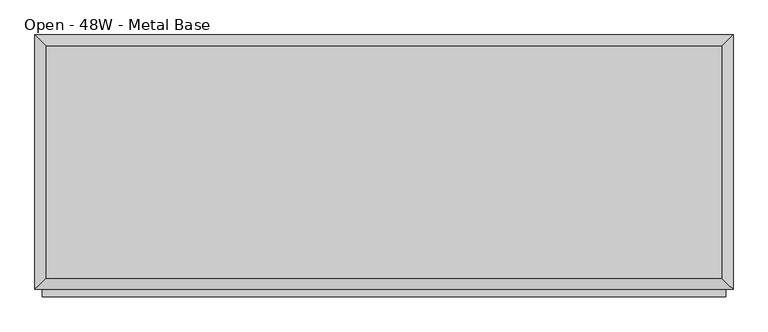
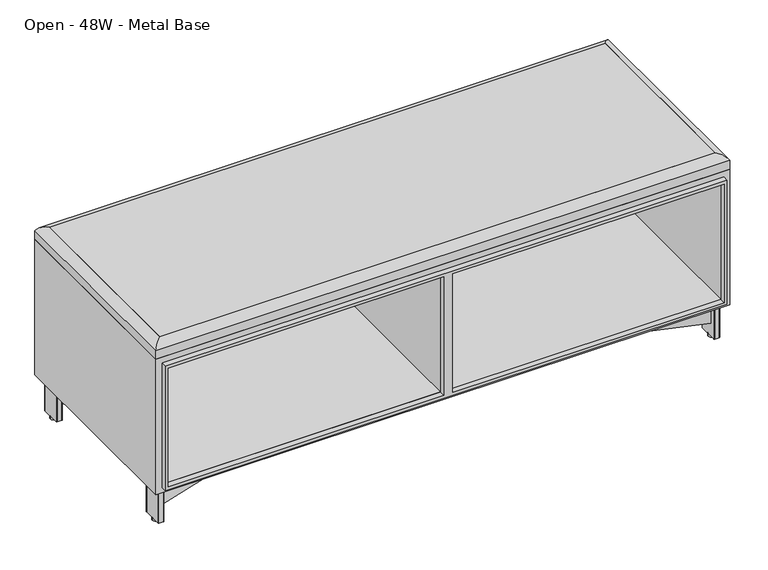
"""IFC4 building model written with IfcOpenShell, lengths in millimetres: furniture geometry, Steelcase Coalesse - Exponents - Seating - Bench : Open - 48W - Metal Base."""

import ifcopenshell
import ifcopenshell.guid

model = None  # the IFC model being written
_history = None  # IfcOwnerHistory: only IFC2X3 demands one
_inside = {}  # id of a spatial element -> (the spatial element, [elements in it])
_under = {}  # id of a project, library or spatial element -> (it, [spatial elements below it])
_declared = {}  # id of a project -> (the project, [libraries it declares])
_typed = {}  # id of a type object -> (the type object, [elements of that type])
_made_of = {}  # id of a material, layer set ... -> (it, [elements and type objects made of it])


def new_model(schema):
    """Start an empty IFC model of exactly this schema.

    Asked for "IFC4X3", IfcOpenShell would pick the latest addendum, in which some entities
    have other attributes; the version numbers below select the first issue.
    IFC2X3 requires an IfcOwnerHistory on every rooted entity: one is made here for all.
    """
    global model, _history
    if schema == "IFC4X3":
        model = ifcopenshell.file(schema_version=(4, 3, 0, 0))
    else:
        model = ifcopenshell.file(schema=schema)
    _inside.clear()
    _under.clear()
    _declared.clear()
    _typed.clear()
    _made_of.clear()
    _history = None
    if model.schema == "IFC2X3":
        org = make("IfcOrganization", Name="unknown")
        user = make(
            "IfcPersonAndOrganization",
            ThePerson=make("IfcPerson", FamilyName="unknown"),
            TheOrganization=org,
        )
        app = make(
            "IfcApplication",
            ApplicationDeveloper=org,
            Version="unknown",
            ApplicationFullName="unknown",
            ApplicationIdentifier="unknown",
        )
        _history = make(
            "IfcOwnerHistory",
            OwningUser=user,
            OwningApplication=app,
            ChangeAction="ADDED",
            CreationDate=0,
        )
    return model


def make(cls, **values):
    """One entity of the class cls with the attributes given. An attribute that is None is left unset."""
    return model.create_entity(
        cls, **{name: value for name, value in values.items() if value is not None}
    )


def rooted(cls, **values):
    """An entity with a GlobalId (a new one), such as an element, a storey or a relation."""
    return make(cls, GlobalId=ifcopenshell.guid.new(), OwnerHistory=_history, **values)


def si_unit(unit_type, name, prefix=None):
    """IfcSIUnit, for example si_unit("LENGTHUNIT", "METRE", prefix="MILLI")."""
    return make("IfcSIUnit", UnitType=unit_type, Prefix=prefix, Name=name)


def assignment(units):
    """IfcUnitAssignment: the units of a project."""
    return None if units is None else make("IfcUnitAssignment", Units=units)


def point(xyz):
    """IfcCartesianPoint."""
    return None if xyz is None else make("IfcCartesianPoint", Coordinates=xyz)


def direction(xyz):
    """IfcDirection."""
    return None if xyz is None else make("IfcDirection", DirectionRatios=xyz)


def frame(location, z_axis=None, x_axis=None):
    """IfcAxis2Placement3D, a coordinate frame: its origin and axes. An axis left out is left unset."""
    return make(
        "IfcAxis2Placement3D",
        Location=point(location),
        Axis=direction(z_axis),
        RefDirection=direction(x_axis),
    )


def frame_2d(location, x_axis=None):
    """IfcAxis2Placement2D, a coordinate frame in the plane: its origin and x axis."""
    return make(
        "IfcAxis2Placement2D", Location=point(location), RefDirection=direction(x_axis)
    )


def origin():
    """The frame at (0, 0, 0) with its axes left unset."""
    return frame((0.0, 0.0, 0.0))


def origin_with_axes():
    """The frame at (0, 0, 0) with the z axis (0, 0, 1) and the x axis (1, 0, 0) written out."""
    return frame((0.0, 0.0, 0.0), z_axis=(0.0, 0.0, 1.0), x_axis=(1.0, 0.0, 0.0))


def place(relative_to, where):
    """IfcLocalPlacement: puts the frame where relative to a parent placement (None: the world)."""
    return make(
        "IfcLocalPlacement", PlacementRelTo=relative_to, RelativePlacement=where
    )


def context(
    kind, dimensions, precision=None, world=None, true_north=None, identifier=None
):
    """IfcGeometricRepresentationContext, for example the 3D "Model" context."""
    return make(
        "IfcGeometricRepresentationContext",
        ContextIdentifier=identifier,
        ContextType=kind,
        CoordinateSpaceDimension=dimensions,
        Precision=precision,
        WorldCoordinateSystem=world,
        TrueNorth=true_north,
    )


def project(units=None, contexts=None):
    """IfcProject with its units and contexts."""
    return rooted(
        "IfcProject",
        Name="project",
        RepresentationContexts=contexts,
        UnitsInContext=assignment(units),
    )


def spatial(cls, under=None, at=None, **own):
    """A site, building, storey or space (cls), placed at a placement, below another one or the project."""
    s = rooted(cls, ObjectPlacement=at, **own)
    if under is not None:
        _under.setdefault(under.id(), (under, []))[1].append(s)
    return s


def polyline(points):
    """IfcPolyline through the points."""
    return make("IfcPolyline", Points=[point(p) for p in points])


def circle_curve(where, radius):
    """IfcCircle in the frame where."""
    return make("IfcCircle", Position=where, Radius=radius)


def ellipse_curve(where, semi_axis1, semi_axis2):
    """IfcEllipse in the frame where."""
    return make(
        "IfcEllipse", Position=where, SemiAxis1=semi_axis1, SemiAxis2=semi_axis2
    )


def trimmed(basis, trim1, trim2, sense, master):
    """IfcTrimmedCurve: the piece of a basis curve between two trims."""
    return make(
        "IfcTrimmedCurve",
        BasisCurve=basis,
        Trim1=trim1,
        Trim2=trim2,
        SenseAgreement=sense,
        MasterRepresentation=master,
    )


def segment(curve, same_sense, transition):
    """IfcCompositeCurveSegment."""
    return make(
        "IfcCompositeCurveSegment",
        Transition=transition,
        SameSense=same_sense,
        ParentCurve=curve,
    )


def composite_curve(segments, self_intersect=None):
    """IfcCompositeCurve: segments joined end to end."""
    return make("IfcCompositeCurve", Segments=segments, SelfIntersect=self_intersect)


def outline(outer, holes=None, kind="AREA"):
    """IfcArbitraryClosedProfileDef: a profile drawn as a closed curve; with holes, ...WithVoids."""
    if holes is None:
        return make("IfcArbitraryClosedProfileDef", ProfileType=kind, OuterCurve=outer)
    return make(
        "IfcArbitraryProfileDefWithVoids",
        ProfileType=kind,
        OuterCurve=outer,
        InnerCurves=holes,
    )


def extrude(swept, where, along, depth):
    """IfcExtrudedAreaSolid: the profile swept, set in the frame where, extruded along a direction by depth."""
    return make(
        "IfcExtrudedAreaSolid",
        SweptArea=swept,
        Position=where,
        ExtrudedDirection=direction(along),
        Depth=depth,
    )


def faces_of(points, faces, orient=None, outer=None):
    """IfcFace entities. A face is a list of loops; a loop is a list of indices into points, from 0.

    orient and outer hold one flag for each loop. By default every Orientation is true, the
    first loop of a face is its IfcFaceOuterBound and the others are IfcFaceBound.
    """
    made = []
    for i, loops in enumerate(faces):
        bounds = []
        for j, loop in enumerate(loops):
            is_outer = j == 0 if outer is None else outer[i][j]
            bounds.append(
                make(
                    "IfcFaceOuterBound" if is_outer else "IfcFaceBound",
                    Bound=make("IfcPolyLoop", Polygon=[points[k] for k in loop]),
                    Orientation=True if orient is None else orient[i][j],
                )
            )
        made.append(make("IfcFace", Bounds=bounds))
    return made


def faceted_brep(points, faces, orient=None, outer=None, voids=None):
    """IfcFacetedBrep: a solid bounded by flat faces; with voids (closed shells), ...WithVoids."""
    shared = [point(p) for p in points]
    hull = make("IfcClosedShell", CfsFaces=faces_of(shared, faces, orient, outer))
    if voids is None:
        return make("IfcFacetedBrep", Outer=hull)
    return make(
        "IfcFacetedBrepWithVoids",
        Outer=hull,
        Voids=[
            make(cls, CfsFaces=faces_of(shared, fs, o, b)) for cls, fs, o, b in voids
        ],
    )


def shape(context_of_items, identifier, shape_type, items):
    """IfcShapeRepresentation: the items that make up one representation, for example the "Body"."""
    return make(
        "IfcShapeRepresentation",
        ContextOfItems=context_of_items,
        RepresentationIdentifier=identifier,
        RepresentationType=shape_type,
        Items=items,
    )


def source(mapping_origin, context_of_items, identifier, shape_type, items):
    """IfcRepresentationMap: a shape defined once, which mapped items show again and again."""
    return make(
        "IfcRepresentationMap",
        MappingOrigin=mapping_origin,
        MappedRepresentation=shape(context_of_items, identifier, shape_type, items),
    )


def transform(
    local_origin,
    x_axis=None,
    y_axis=None,
    z_axis=None,
    scale=None,
    scale2=None,
    scale3=None,
    uniform=True,
):
    """IfcCartesianTransformationOperator3D, or its non-uniform kind. x_axis, y_axis, z_axis: its Axis1, 2, 3."""
    if uniform:
        return make(
            "IfcCartesianTransformationOperator3D",
            Axis1=direction(x_axis),
            Axis2=direction(y_axis),
            LocalOrigin=point(local_origin),
            Scale=scale,
            Axis3=direction(z_axis),
        )
    return make(
        "IfcCartesianTransformationOperator3DnonUniform",
        Axis1=direction(x_axis),
        Axis2=direction(y_axis),
        LocalOrigin=point(local_origin),
        Scale=scale,
        Axis3=direction(z_axis),
        Scale2=scale2,
        Scale3=scale3,
    )


def mapped(mapping_source, mapping_target):
    """IfcMappedItem: shows the shape of a source again, moved by a transform."""
    return make(
        "IfcMappedItem", MappingSource=mapping_source, MappingTarget=mapping_target
    )


def made_of(thing, what):
    """Note that an element or type object is made of a material, layer set ...; save() writes the relation."""
    if what is not None:
        _made_of.setdefault(what.id(), (what, []))[1].append(thing)
    return thing


def element(
    cls,
    number,
    at=None,
    inside=None,
    cuts=None,
    type_object=None,
    material=None,
    context=None,
    identifier="Body",
    shape_type=None,
    held_by="IfcProductDefinitionShape",
    body=None,
    shapes=None,
    **own,
):
    """One element of the class cls, such as IfcWall. Its Tag is "e" and its number.

    at: its placement. inside: the storey or other place that contains it. cuts: it is an
    opening in that element (IfcRelVoidsElement). A single representation is given by context,
    identifier, shape_type and body (its items); several are given by shapes. held_by: the class
    of the entity that holds the representations. save() writes the other relations.
    """
    e = rooted(cls, Tag="e%d" % number, ObjectPlacement=at, **own)
    if body is not None:
        shapes = [shape(context, identifier, shape_type, body)]
    if shapes is not None:
        e.Representation = make(held_by, Representations=shapes)
    if inside is not None:
        _inside.setdefault(inside.id(), (inside, []))[1].append(e)
    if cuts is not None:
        rooted(
            "IfcRelVoidsElement", RelatingBuildingElement=cuts, RelatedOpeningElement=e
        )
    if type_object is not None:
        _typed.setdefault(type_object.id(), (type_object, []))[1].append(e)
    return made_of(e, material)


def aggregate(whole, parts):
    """IfcRelAggregates: a whole, such as a stair, and the parts it consists of."""
    return rooted("IfcRelAggregates", RelatingObject=whole, RelatedObjects=parts)


def save(model, path):
    """Write the relations noted so far, then the file.

    IfcRelAggregates (storeys below a building ...), IfcRelContainedInSpatialStructure (elements
    in a storey), IfcRelDefinesByType, IfcRelAssociatesMaterial and IfcRelDeclares: one each for
    every whole, place, type object, material and project.
    """
    for whole, parts in _under.values():
        aggregate(whole, parts)
    for where, things in _inside.values():
        rooted(
            "IfcRelContainedInSpatialStructure",
            RelatedElements=things,
            RelatingStructure=where,
        )
    for kind, things in _typed.values():
        rooted("IfcRelDefinesByType", RelatedObjects=things, RelatingType=kind)
    for what, things in _made_of.values():
        rooted("IfcRelAssociatesMaterial", RelatedObjects=things, RelatingMaterial=what)
    for by, libraries in _declared.values():
        rooted("IfcRelDeclares", RelatingContext=by, RelatedDefinitions=libraries)
    model.write(path)


def plane_surface(at):
    """IfcPlane: the flat surface through the origin of the frame at, square to its z axis."""
    return make("IfcPlane", Position=at)


def cylinder_surface(at, radius):
    """IfcCylindricalSurface: all points at the distance radius from the z axis of the frame at."""
    return make("IfcCylindricalSurface", Position=at, Radius=radius)


def advanced_brep(points, edges, surfaces, faces):
    """IfcAdvancedBrep: a solid bounded by faces that lie on surfaces and meet in shared edges.

    An edge is (start, end): straight between two places in points (the first is 0);
    or (start, end, curve); or (start, end, curve, False) where it runs against its curve.
    A face is (place in surfaces, loops), or (place, loops, False) where it looks against
    its surface's normal. A loop lists edges by number (the first is 1), with a minus sign
    where the edge is run from its end to its start. The first loop is the outer one.
    """
    corners = [point(p) for p in points]
    vertices = [make("IfcVertexPoint", VertexGeometry=c) for c in corners]
    made = []
    for start, end, *more in edges:
        made.append(
            make(
                "IfcEdgeCurve",
                EdgeStart=vertices[start],
                EdgeEnd=vertices[end],
                EdgeGeometry=more[0] if more else make("IfcPolyline", Points=[corners[start], corners[end]]),
                SameSense=more[1] if len(more) > 1 else True,
            )
        )
    hull = []
    for where, loops, *sense in faces:
        bounds = []
        for j, loop in enumerate(loops):
            ring = [make("IfcOrientedEdge", EdgeElement=made[abs(k) - 1], Orientation=k > 0) for k in loop]
            bounds.append(
                make(
                    "IfcFaceOuterBound" if j == 0 else "IfcFaceBound",
                    Bound=make("IfcEdgeLoop", EdgeList=ring),
                    Orientation=True,
                )
            )
        hull.append(make("IfcAdvancedFace", Bounds=bounds, FaceSurface=surfaces[where], SameSense=sense[0] if sense else True))
    return make("IfcAdvancedBrep", Outer=make("IfcClosedShell", CfsFaces=hull))


def open_48w_metal_base_6d66fc51(model_context):
    return source(origin(), model_context, "Body", "SolidModel", [
        faceted_brep([(1193.419, 428.1633485, 82.55), (614.172, 251.7961151, 82.55), (614.172, 218.1038849, 82.55), (1193.419, 37.8529725, 82.55), (1193.419, 57.8040065, 82.55), (624.1498412, 234.95, 82.55), (1193.419, 408.2123144, 82.55), (1193.419, 428.1633485, 34.925), (1193.419, 408.2123144, 34.925), (624.2031998, 234.9333958, 34.925), (1193.419, 57.8040065, 34.925), (1193.419, 37.8529725, 34.925), (614.172, 218.1038849, 34.925), (614.172, 251.7961151, 34.925)], [[[0, 1, 2, 3, 4, 5, 6]], [[7, 8, 9, 10, 11, 12, 13]], [[1, 0, 7, 13]], [[2, 1, 13, 12]], [[3, 2, 12, 11]], [[4, 3, 11, 10]], [[5, 4, 10, 9]], [[6, 5, 9, 8]], [[0, 6, 8, 7]]]),
        advanced_brep(
        [(0.0, 12.7, 406.6283237), (0.0, 12.7, 387.35), (1219.2, 12.7, 387.35), (1219.2, 12.7, 406.6283237), (1219.2, 457.2, 406.6283237), (1219.2, 457.2, 387.35), (0.0, 457.2, 387.35), (0.0, 457.2, 406.6283237), (1200.15, 31.75, 406.6283237), (1200.15, 438.15, 406.6283237), (19.05, 438.15, 406.6283237), (19.05, 31.75, 406.6283237), (1200.15, 438.15, 419.0696271), (1200.15, 31.75, 419.0696271), (19.05, 31.75, 419.0696271), (19.05, 438.15, 419.0696271)],
        [
            (0, 1),
            (1, 2),
            (2, 3),
            (3, 0),
            (4, 5),
            (5, 6),
            (6, 7),
            (7, 4),
            (8, 9),
            (9, 10),
            (10, 11),
            (11, 8),
            (0, 7),
            (6, 1),
            (5, 2),
            (4, 3),
            (12, 9),
            (8, 13),
            (13, 12),
            (13, 3, ellipse_curve(frame((1198.5973666, 33.3026334, 395.8870134), z_axis=(0.7071067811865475, 0.7071067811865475, 0.0), x_axis=(-0.7071067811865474, 0.7071067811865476, 0.0)), 32.8586138, 23.2345486)),
            (4, 12, ellipse_curve(frame((1198.5973666, 436.5973666, 395.8870134), z_axis=(0.7071067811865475, -0.7071067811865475, 0.0), x_axis=(0.7071067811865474, 0.7071067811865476, 0.0)), 32.8586138, 23.2345486)),
            (11, 14),
            (14, 13),
            (14, 0, ellipse_curve(frame((20.6026334, 33.3026334, 395.8870134), z_axis=(0.7071067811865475, -0.7071067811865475, 0.0), x_axis=(0.7071067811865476, 0.7071067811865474, 0.0)), 32.8586138, 23.2345486)),
            (10, 15),
            (15, 14),
            (15, 7, ellipse_curve(frame((20.6026334, 436.5973666, 395.8870134), z_axis=(-0.7071067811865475, -0.7071067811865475, 0.0), x_axis=(0.7071067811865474, -0.7071067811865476, 0.0)), 32.8586138, 23.2345486)),
            (12, 15),
        ],
        [
            plane_surface(frame((0.0, 12.7, 406.6283237), z_axis=(0.0, -1.0, 0.0), x_axis=(-1.0, 0.0, 0.0))),
            plane_surface(frame((0.0, 457.2, 406.6283237), z_axis=(0.0, 1.0, 0.0), x_axis=(1.0, 0.0, 0.0))),
            plane_surface(frame((1219.2, 12.7, 406.6283237), z_axis=(0.0, 0.0, 1.0), x_axis=(0.0, 1.0, 0.0))),
            plane_surface(frame((0.0, 12.7, 406.6283237), z_axis=(-1.0, 0.0, 1.9588398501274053e-12), x_axis=(0.0, 1.0, 0.0))),
            plane_surface(frame((0.0, 12.7, 387.35), z_axis=(0.0, 0.0, -1.0), x_axis=(0.0, 1.0, 0.0))),
            plane_surface(frame((1219.2, 12.7, 387.35), z_axis=(1.0, 0.0, 0.0), x_axis=(0.0, 1.0, 0.0))),
            plane_surface(frame((1200.15, 438.15, 406.6284102), z_axis=(-1.0, 0.0, 0.0), x_axis=(0.0, -1.0, 0.0))),
            cylinder_surface(frame((1198.5973666, 457.2, 395.8870134), z_axis=(0.0, 1.0, 0.0), x_axis=(1.0, 0.0, 0.0)), 23.2345486),
            plane_surface(frame((1200.15, 31.75, 406.6284102), z_axis=(0.0, 1.0, 0.0), x_axis=(-1.0, 0.0, 0.0))),
            cylinder_surface(frame((1219.2, 33.3026334, 395.8870134), z_axis=(1.0, 0.0, 0.0), x_axis=(0.0, -1.0, 0.0)), 23.2345486),
            plane_surface(frame((19.05, 31.75, 406.6284102), z_axis=(1.0, 0.0, 0.0), x_axis=(0.0, 1.0, 0.0))),
            cylinder_surface(frame((20.6026334, 12.7, 395.8870134), z_axis=(0.0, -1.0, 0.0), x_axis=(-1.0, 0.0, 0.0)), 23.2345486),
            plane_surface(frame((19.05, 438.15, 406.6284102), z_axis=(0.0, -1.0, 0.0), x_axis=(1.0, 0.0, 0.0))),
            cylinder_surface(frame((0.0, 436.5973666, 395.8870134), z_axis=(-1.0, 0.0, 0.0), x_axis=(0.0, 1.0, 0.0)), 23.2345486),
        ],
        [
            (0, [[1, 2, 3, 4]]),
            (1, [[5, 6, 7, 8]]),
            (2, [[9, 10, 11, 12]]),
            (3, [[-1, 13, -7, 14]]),
            (4, [[-2, -14, -6, 15]]),
            (5, [[-3, -15, -5, 16]]),
            (6, [[17, -9, 18, 19]]),
            (7, [[-19, 20, -16, 21]]),
            (8, [[-18, -12, 22, 23]]),
            (9, [[-20, -23, 24, -4]]),
            (10, [[-22, -11, 25, 26]]),
            (11, [[-24, -26, 27, -13]]),
            (12, [[-17, 28, -25, -10]]),
            (13, [[-21, -8, -27, -28]]),
        ],
    ),
        extrude(outline(composite_curve([segment(trimmed(circle_curve(frame_2d((614.4757069, 234.844279)), 6.35), [point((608.1257069, 234.844279))], [point((620.8257069, 234.844279))], False, "CARTESIAN"), True, "CONTINUOUS"), segment(trimmed(circle_curve(frame_2d((614.4757069, 234.844279)), 6.35), [point((620.8257069, 234.844279))], [point((608.1257069, 234.844279))], False, "CARTESIAN"), True, "CONTINUOUS")], self_intersect=False)), origin_with_axes(), (0.0, 0.0, 1.0), 6.3754),
        extrude(outline(composite_curve([segment(trimmed(circle_curve(frame_2d((622.3, 252.476)), 1.524), [point((622.3, 254.0))], [point((623.824, 252.476))], False, "CARTESIAN"), True, "CONTINUOUS"), segment(polyline([(623.824, 252.476), (623.824, 217.424)]), True, "CONTINUOUS"), segment(trimmed(circle_curve(frame_2d((622.3, 217.424)), 1.524), [point((623.824, 217.424))], [point((622.3, 215.9))], False, "CARTESIAN"), True, "CONTINUOUS"), segment(polyline([(622.3, 215.9), (606.410829, 215.9)]), True, "CONTINUOUS"), segment(trimmed(circle_curve(frame_2d((606.410829, 217.536829)), 1.636829), [point((606.410829, 215.9))], [point((604.774, 217.536829))], False, "CARTESIAN"), True, "CONTINUOUS"), segment(polyline([(604.774, 217.536829), (604.774, 252.476)]), True, "CONTINUOUS"), segment(trimmed(circle_curve(frame_2d((606.298, 252.476)), 1.524), [point((604.774, 252.476))], [point((606.298, 254.0))], False, "CARTESIAN"), True, "CONTINUOUS"), segment(polyline([(606.298, 254.0), (622.3, 254.0)]), True, "CONTINUOUS")], self_intersect=False)), frame((0.0, 0.0, 6.3754), z_axis=(0.0, 0.0, 1.0), x_axis=(1.0, 0.0, 0.0)), (0.0, 0.0, 1.0), 73.152),
        faceted_brep([(1219.2, 12.7, 387.35), (0.0, 12.7, 387.35), (0.0, 12.7, 82.55), (1219.2, 12.7, 82.55), (19.05, 12.7, 368.0968), (604.774, 12.7, 368.0968), (604.774, 12.7, 101.8032), (19.05, 12.7, 101.8032), (623.824, 12.7, 368.0968), (1200.15, 12.7, 368.0968), (1200.15, 12.7, 101.8032), (623.824, 12.7, 101.8032), (1219.2, 457.2, 387.35), (1219.2, 457.2, 82.55), (0.0, 457.2, 82.55), (0.0, 457.2, 387.35), (604.774, 438.15, 368.0968), (19.05, 438.15, 368.0968), (19.05, 438.15, 101.8032), (604.774, 438.15, 101.8032), (1200.15, 438.15, 368.0968), (623.824, 438.15, 368.0968), (623.824, 438.15, 101.8032), (1200.15, 438.15, 101.8032)], [[[0, 1, 2, 3], [4, 5, 6, 7], [8, 9, 10, 11]], [[12, 13, 14, 15]], [[1, 0, 12, 15]], [[2, 1, 15, 14]], [[3, 2, 14, 13]], [[0, 3, 13, 12]], [[16, 17, 18, 19]], [[20, 21, 22, 23]], [[17, 16, 5, 4]], [[18, 17, 4, 7]], [[19, 18, 7, 6]], [[16, 19, 6, 5]], [[21, 20, 9, 8]], [[22, 21, 8, 11]], [[23, 22, 11, 10]], [[20, 23, 10, 9]]]),
        extrude(outline(polyline([(660.4, 285.75), (660.4, 184.15), (558.8, 184.15), (558.8, 285.75), (660.4, 285.75)])), frame((0.0, 0.0, 79.5274), z_axis=(0.0, 0.0, 1.0), x_axis=(1.0, 0.0, 0.0)), (0.0, 0.0, 1.0), 3.048),
        extrude(outline(composite_curve([segment(trimmed(circle_curve(frame_2d((19.163053, 47.5933344)), 6.35), [point((25.513053, 47.5933344))], [point((12.813053, 47.5933344))], False, "CARTESIAN"), True, "CONTINUOUS"), segment(trimmed(circle_curve(frame_2d((19.163053, 47.5933344)), 6.35), [point((12.813053, 47.5933344))], [point((25.513053, 47.5933344))], False, "CARTESIAN"), True, "CONTINUOUS")], self_intersect=False)), origin_with_axes(), (0.0, 0.0, 1.0), 6.3754),
        extrude(outline(composite_curve([segment(trimmed(circle_curve(frame_2d((14.224, 26.924)), 1.524), [point((14.224, 25.4))], [point((12.7, 26.924))], False, "CARTESIAN"), True, "CONTINUOUS"), segment(polyline([(12.7, 26.924), (12.7, 68.326)]), True, "CONTINUOUS"), segment(trimmed(circle_curve(frame_2d((14.224, 68.326)), 1.524), [point((12.7, 68.326))], [point((14.224, 69.85))], False, "CARTESIAN"), True, "CONTINUOUS"), segment(polyline([(14.224, 69.85), (23.661571, 69.85)]), True, "CONTINUOUS"), segment(trimmed(circle_curve(frame_2d((23.661571, 68.213171)), 1.636829), [point((23.661571, 69.85))], [point((25.2984, 68.213171))], False, "CARTESIAN"), True, "CONTINUOUS"), segment(polyline([(25.2984, 68.213171), (25.2984, 26.924)]), True, "CONTINUOUS"), segment(trimmed(circle_curve(frame_2d((23.7744, 26.924)), 1.524), [point((25.2984, 26.924))], [point((23.7744, 25.4))], False, "CARTESIAN"), True, "CONTINUOUS"), segment(polyline([(23.7744, 25.4), (14.224, 25.4)]), True, "CONTINUOUS")], self_intersect=False)), frame((0.0, 0.0, 6.3754), z_axis=(0.0, 0.0, 1.0), x_axis=(1.0, 0.0, 0.0)), (0.0, 0.0, 1.0), 73.152),
        extrude(outline(polyline([(6.35, 19.05), (6.35, 120.65), (107.95, 120.65), (107.95, 19.05), (6.35, 19.05)])), frame((0.0, 0.0, 79.5274), z_axis=(0.0, 0.0, 1.0), x_axis=(1.0, 0.0, 0.0)), (0.0, 0.0, 1.0), 3.048),
        extrude(outline(composite_curve([segment(trimmed(circle_curve(frame_2d((19.163053, 422.3066656)), 6.35), [point((25.513053, 422.3066656))], [point((12.813053, 422.3066656))], False, "CARTESIAN"), True, "CONTINUOUS"), segment(trimmed(circle_curve(frame_2d((19.163053, 422.3066656)), 6.35), [point((12.813053, 422.3066656))], [point((25.513053, 422.3066656))], False, "CARTESIAN"), True, "CONTINUOUS")], self_intersect=False)), origin_with_axes(), (0.0, 0.0, 1.0), 6.3754),
        extrude(outline(composite_curve([segment(polyline([(14.224, 444.5), (23.7744, 444.5)]), True, "CONTINUOUS"), segment(trimmed(circle_curve(frame_2d((23.7744, 442.976)), 1.524), [point((23.7744, 444.5))], [point((25.2984, 442.976))], False, "CARTESIAN"), True, "CONTINUOUS"), segment(polyline([(25.2984, 442.976), (25.2984, 401.686829)]), True, "CONTINUOUS"), segment(trimmed(circle_curve(frame_2d((23.661571, 401.686829)), 1.636829), [point((25.2984, 401.686829))], [point((23.661571, 400.05))], False, "CARTESIAN"), True, "CONTINUOUS"), segment(polyline([(23.661571, 400.05), (14.224, 400.05)]), True, "CONTINUOUS"), segment(trimmed(circle_curve(frame_2d((14.224, 401.574)), 1.524), [point((14.224, 400.05))], [point((12.7, 401.574))], False, "CARTESIAN"), True, "CONTINUOUS"), segment(polyline([(12.7, 401.574), (12.7, 442.976)]), True, "CONTINUOUS"), segment(trimmed(circle_curve(frame_2d((14.224, 442.976)), 1.524), [point((12.7, 442.976))], [point((14.224, 444.5))], False, "CARTESIAN"), True, "CONTINUOUS")], self_intersect=False)), frame((0.0, 0.0, 6.3754), z_axis=(0.0, 0.0, 1.0), x_axis=(1.0, 0.0, 0.0)), (0.0, 0.0, 1.0), 73.152),
        extrude(outline(polyline([(6.35, 450.85), (107.95, 450.85), (107.95, 349.25), (6.35, 349.25), (6.35, 450.85)])), frame((0.0, 0.0, 79.5274), z_axis=(0.0, 0.0, 1.0), x_axis=(1.0, 0.0, 0.0)), (0.0, 0.0, 1.0), 3.048),
        extrude(outline(composite_curve([segment(trimmed(circle_curve(frame_2d((1199.8706, 47.5933344)), 6.35), [point((1193.5206, 47.5933344))], [point((1206.2206, 47.5933344))], False, "CARTESIAN"), True, "CONTINUOUS"), segment(trimmed(circle_curve(frame_2d((1199.8706, 47.5933344)), 6.35), [point((1206.2206, 47.5933344))], [point((1193.5206, 47.5933344))], False, "CARTESIAN"), True, "CONTINUOUS")], self_intersect=False)), origin_with_axes(), (0.0, 0.0, 1.0), 6.3754),
        extrude(outline(composite_curve([segment(polyline([(1204.6966, 25.4), (1194.943, 25.4)]), True, "CONTINUOUS"), segment(trimmed(circle_curve(frame_2d((1194.943, 26.924)), 1.524), [point((1194.943, 25.4))], [point((1193.419, 26.924))], False, "CARTESIAN"), True, "CONTINUOUS"), segment(polyline([(1193.419, 26.924), (1193.419, 68.213171)]), True, "CONTINUOUS"), segment(trimmed(circle_curve(frame_2d((1195.055829, 68.213171)), 1.636829), [point((1193.419, 68.213171))], [point((1195.055829, 69.85))], False, "CARTESIAN"), True, "CONTINUOUS"), segment(polyline([(1195.055829, 69.85), (1204.6966, 69.85)]), True, "CONTINUOUS"), segment(trimmed(circle_curve(frame_2d((1204.6966, 68.326)), 1.524), [point((1204.6966, 69.85))], [point((1206.2206, 68.326))], False, "CARTESIAN"), True, "CONTINUOUS"), segment(polyline([(1206.2206, 68.326), (1206.2206, 26.924)]), True, "CONTINUOUS"), segment(trimmed(circle_curve(frame_2d((1204.6966, 26.924)), 1.524), [point((1206.2206, 26.924))], [point((1204.6966, 25.4))], False, "CARTESIAN"), True, "CONTINUOUS")], self_intersect=False)), frame((0.0, 0.0, 6.3754), z_axis=(0.0, 0.0, 1.0), x_axis=(1.0, 0.0, 0.0)), (0.0, 0.0, 1.0), 73.152),
        extrude(outline(polyline([(1212.81225, 19.05), (1111.25, 19.05), (1111.25, 120.65), (1212.81225, 120.65), (1212.81225, 19.05)])), frame((0.0, 0.0, 79.5274), z_axis=(0.0, 0.0, 1.0), x_axis=(1.0, 0.0, 0.0)), (0.0, 0.0, 1.0), 3.048),
        extrude(outline(polyline([(25.2984, 432.1805995), (604.774, 251.858551), (604.774, 218.041449), (25.2984, 37.7194005), (25.2984, 57.6704345), (594.9968002, 234.95), (25.2984, 412.2295655), (25.2984, 432.1805995)])), frame((0.0, 0.0, 34.925), z_axis=(0.0, 0.0, 1.0), x_axis=(1.0, 0.0, 0.0)), (0.0, 0.0, 1.0), 47.625),
        extrude(outline(composite_curve([segment(trimmed(circle_curve(frame_2d((1199.8706, 422.3066656)), 6.35), [point((1193.5206, 422.3066656))], [point((1206.2206, 422.3066656))], False, "CARTESIAN"), True, "CONTINUOUS"), segment(trimmed(circle_curve(frame_2d((1199.8706, 422.3066656)), 6.35), [point((1206.2206, 422.3066656))], [point((1193.5206, 422.3066656))], False, "CARTESIAN"), True, "CONTINUOUS")], self_intersect=False)), origin_with_axes(), (0.0, 0.0, 1.0), 6.3754),
        extrude(outline(composite_curve([segment(trimmed(circle_curve(frame_2d((1204.6966, 442.976)), 1.524), [point((1204.6966, 444.5))], [point((1206.2206, 442.976))], False, "CARTESIAN"), True, "CONTINUOUS"), segment(polyline([(1206.2206, 442.976), (1206.2206, 401.574)]), True, "CONTINUOUS"), segment(trimmed(circle_curve(frame_2d((1204.6966, 401.574)), 1.524), [point((1206.2206, 401.574))], [point((1204.6966, 400.05))], False, "CARTESIAN"), True, "CONTINUOUS"), segment(polyline([(1204.6966, 400.05), (1195.055829, 400.05)]), True, "CONTINUOUS"), segment(trimmed(circle_curve(frame_2d((1195.055829, 401.686829)), 1.636829), [point((1195.055829, 400.05))], [point((1193.419, 401.686829))], False, "CARTESIAN"), True, "CONTINUOUS"), segment(polyline([(1193.419, 401.686829), (1193.419, 442.976)]), True, "CONTINUOUS"), segment(trimmed(circle_curve(frame_2d((1194.943, 442.976)), 1.524), [point((1193.419, 442.976))], [point((1194.943, 444.5))], False, "CARTESIAN"), True, "CONTINUOUS"), segment(polyline([(1194.943, 444.5), (1204.6966, 444.5)]), True, "CONTINUOUS")], self_intersect=False)), frame((0.0, 0.0, 6.3754), z_axis=(0.0, 0.0, 1.0), x_axis=(1.0, 0.0, 0.0)), (0.0, 0.0, 1.0), 73.152),
        extrude(outline(polyline([(1212.81225, 450.85), (1212.81225, 349.25), (1111.25, 349.25), (1111.25, 450.85), (1212.81225, 450.85)])), frame((0.0, 0.0, 79.5274), z_axis=(0.0, 0.0, 1.0), x_axis=(1.0, 0.0, 0.0)), (0.0, 0.0, 1.0), 3.048),
        extrude(outline(polyline([(1200.15, 31.75), (19.05, 31.75), (19.05, 438.15), (1200.15, 438.15), (1200.15, 31.75)])), frame((0.0, 0.0, 406.6283237), z_axis=(0.0, 0.0, 1.0), x_axis=(1.0, 0.0, 0.0)), (0.0, 0.0, 1.0), 12.4413034),
        extrude(outline(polyline([(374.4468, 1206.2206), (374.4468, 12.7), (95.4532, 12.7), (95.4532, 1206.2206), (374.4468, 1206.2206)]), holes=[polyline([(368.0968, 623.824), (368.0968, 1200.15), (101.8032, 1200.15), (101.8032, 623.824), (368.0968, 623.824)]), polyline([(368.0968, 604.774), (101.8032, 604.774), (101.8032, 19.05), (368.0968, 19.05), (368.0968, 604.774)])]), frame((0.0, 0.0, 0.0), z_axis=(0.0, 1.0, 0.0), x_axis=(0.0, 0.0, 1.0)), (0.0, 0.0, 1.0), 12.7),
    ])


if __name__ == "__main__":
    model = new_model("IFC4")
    model_context = context("Model", 3, world=origin())
    ifc_project = project(units=[si_unit("LENGTHUNIT", "METRE", prefix="MILLI")], contexts=[model_context])
    site = spatial("IfcSite", under=ifc_project)
    building = spatial("IfcBuilding", under=site)
    placement = place(None, origin())
    open_48w_metal_base_shape = open_48w_metal_base_6d66fc51(model_context)
    element("IfcFurniture", 1, ObjectType="Steelcase Coalesse - Exponents - Seating - Bench : Open - 48W - Metal Base", at=placement, inside=building, context=model_context, shape_type="MappedRepresentation", body=[
        mapped(open_48w_metal_base_shape, transform((0.0, 0.0, 0.0), x_axis=(1.0, 0.0, 0.0), y_axis=(0.0, 1.0, 0.0), z_axis=(0.0, 0.0, 1.0))),
    ])
    save(model, "model.ifc")
